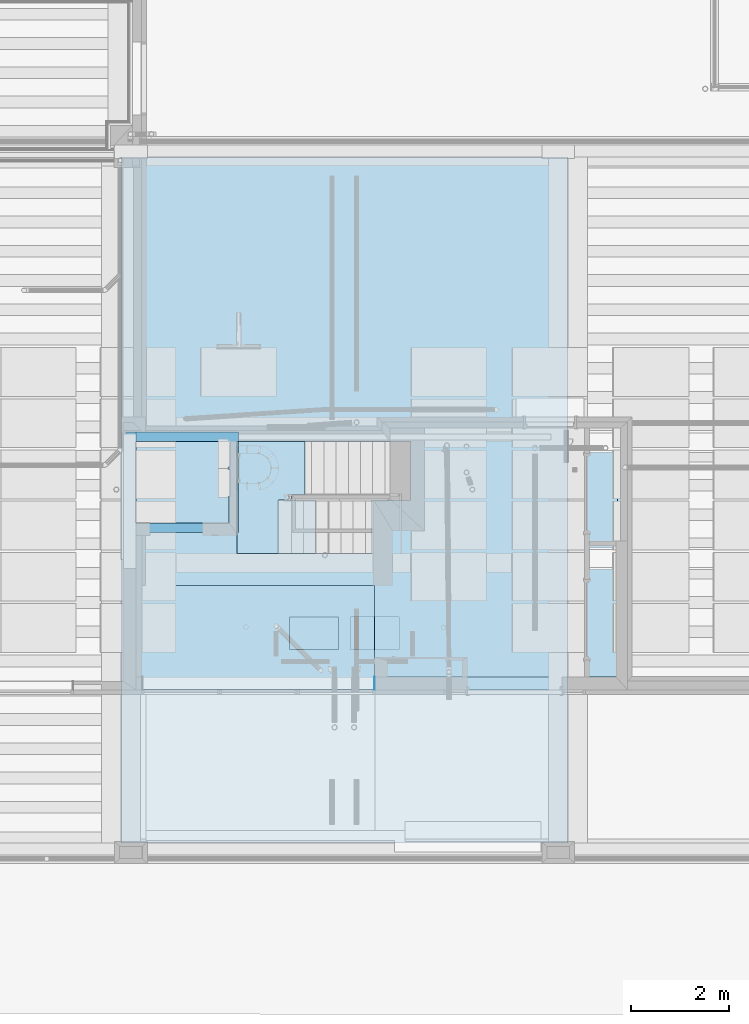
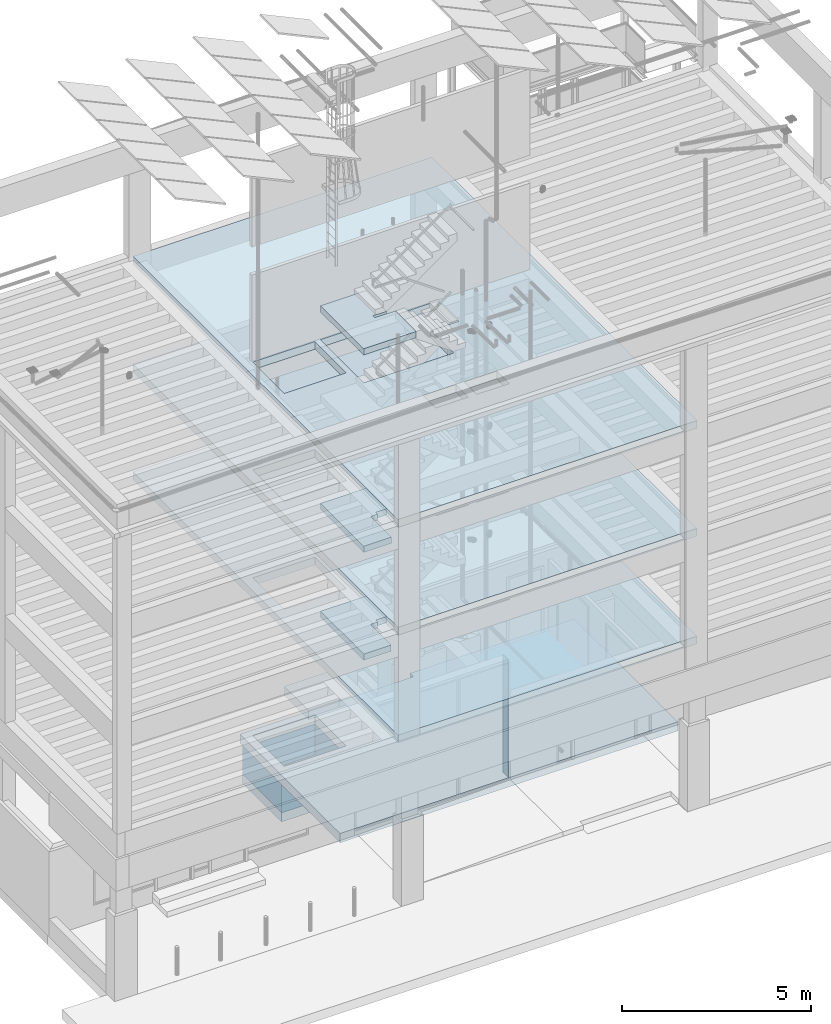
# One storey, part 18 of 106: 12 slabs.
"""IFC2X3 building model written with IfcOpenShell, lengths in metres."""

from ifc_helpers import new_model, entity, si_unit, converted_unit, derived_unit, money_unit, direction, frame, origin_with_axes, place, context, subcontext, project, spatial, faceted_brep, material, type_object, element, save


model = new_model("IFC2X3")

# Units and contexts
model_context = context("Model", 3, precision=1e-05, world=origin_with_axes(), true_north=direction((0.0, 1.0)))
body_context = subcontext(model_context, "Body", "Model", "MODEL_VIEW", scale=1.0)
ifc_project = project(units=[si_unit("LENGTHUNIT", "METRE"), si_unit("AREAUNIT", "SQUARE_METRE"), si_unit("VOLUMEUNIT", "CUBIC_METRE"), si_unit("ABSORBEDDOSEUNIT", "GRAY"), si_unit("AMOUNTOFSUBSTANCEUNIT", "MOLE"), si_unit("DOSEEQUIVALENTUNIT", "SIEVERT"), si_unit("ELECTRICCAPACITANCEUNIT", "FARAD"), si_unit("ELECTRICCHARGEUNIT", "COULOMB"), si_unit("ELECTRICCONDUCTANCEUNIT", "SIEMENS"), si_unit("ELECTRICCURRENTUNIT", "AMPERE"), si_unit("ELECTRICRESISTANCEUNIT", "OHM"), si_unit("ELECTRICVOLTAGEUNIT", "VOLT"), si_unit("ENERGYUNIT", "JOULE"), si_unit("FORCEUNIT", "NEWTON"), si_unit("FREQUENCYUNIT", "HERTZ"), si_unit("ILLUMINANCEUNIT", "LUX"), si_unit("INDUCTANCEUNIT", "HENRY"), si_unit("LUMINOUSFLUXUNIT", "LUMEN"), si_unit("LUMINOUSINTENSITYUNIT", "CANDELA"), si_unit("MAGNETICFLUXDENSITYUNIT", "TESLA"), si_unit("MAGNETICFLUXUNIT", "WEBER"), si_unit("MASSUNIT", "GRAM"), converted_unit("PLANEANGLEUNIT", "degree", entity("IfcReal", 0.0174532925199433), si_unit("PLANEANGLEUNIT", "RADIAN"), dimensions=[0, 0, 0, 0, 0, 0, 0]), si_unit("POWERUNIT", "WATT"), si_unit("PRESSUREUNIT", "PASCAL"), si_unit("RADIOACTIVITYUNIT", "BECQUEREL"), si_unit("SOLIDANGLEUNIT", "STERADIAN"), si_unit("THERMODYNAMICTEMPERATUREUNIT", "KELVIN"), si_unit("TIMEUNIT", "SECOND"), derived_unit("ACCELERATIONUNIT", [(si_unit("LENGTHUNIT", "METRE"), 1), (si_unit("TIMEUNIT", "SECOND"), -2)]), derived_unit("ANGULARVELOCITYUNIT", [(converted_unit("PLANEANGLEUNIT", "degree", entity("IfcReal", 0.0174532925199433), si_unit("PLANEANGLEUNIT", "RADIAN"), dimensions=[0, 0, 0, 0, 0, 0, 0]), 1), (si_unit("TIMEUNIT", "SECOND"), -1)]), derived_unit("CURVATUREUNIT", [(converted_unit("PLANEANGLEUNIT", "degree", entity("IfcReal", 0.0174532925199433), si_unit("PLANEANGLEUNIT", "RADIAN"), dimensions=[0, 0, 0, 0, 0, 0, 0]), 1), (si_unit("LENGTHUNIT", "METRE"), -1)]), derived_unit("DYNAMICVISCOSITYUNIT", [(si_unit("PRESSUREUNIT", "PASCAL"), 1), (si_unit("TIMEUNIT", "SECOND"), 1)]), derived_unit("HEATFLUXDENSITYUNIT", [(si_unit("POWERUNIT", "WATT"), 1), (si_unit("LENGTHUNIT", "METRE"), -2)]), derived_unit("HEATINGVALUEUNIT", [(si_unit("ENERGYUNIT", "JOULE"), 1), (si_unit("MASSUNIT", "GRAM"), -1)]), derived_unit("INTEGERCOUNTRATEUNIT", [(si_unit("TIMEUNIT", "SECOND"), -1)]), derived_unit("IONCONCENTRATIONUNIT", [(si_unit("MASSUNIT", "GRAM"), 1), (si_unit("VOLUMEUNIT", "CUBIC_METRE"), -1)]), derived_unit("ISOTHERMALMOISTURECAPACITYUNIT", [(si_unit("VOLUMEUNIT", "CUBIC_METRE"), 1), (si_unit("MASSUNIT", "GRAM"), -1)]), derived_unit("KINEMATICVISCOSITYUNIT", [(si_unit("AREAUNIT", "SQUARE_METRE"), 1), (si_unit("TIMEUNIT", "SECOND"), -1)]), derived_unit("LINEARFORCEUNIT", [(si_unit("FORCEUNIT", "NEWTON"), 1), (si_unit("LENGTHUNIT", "METRE"), -1)]), derived_unit("LINEARMOMENTUNIT", [(si_unit("FORCEUNIT", "NEWTON"), 1), (si_unit("LENGTHUNIT", "METRE"), -1)]), derived_unit("LINEARSTIFFNESSUNIT", [(si_unit("FORCEUNIT", "NEWTON"), 1), (si_unit("LENGTHUNIT", "METRE"), -1)]), derived_unit("LINEARVELOCITYUNIT", [(si_unit("LENGTHUNIT", "METRE"), 1), (si_unit("TIMEUNIT", "SECOND"), -1)]), derived_unit("LUMINOUSINTENSITYDISTRIBUTIONUNIT", [(si_unit("LUMINOUSINTENSITYUNIT", "CANDELA"), 1), (si_unit("LUMINOUSFLUXUNIT", "LUMEN"), -1)]), derived_unit("MASSDENSITYUNIT", [(si_unit("MASSUNIT", "GRAM"), 1), (si_unit("VOLUMEUNIT", "CUBIC_METRE"), -1)]), derived_unit("MASSFLOWRATEUNIT", [(si_unit("MASSUNIT", "GRAM"), 1), (si_unit("TIMEUNIT", "SECOND"), -1)]), derived_unit("MASSPERLENGTHUNIT", [(si_unit("MASSUNIT", "GRAM"), 1), (si_unit("LENGTHUNIT", "METRE"), -1)]), derived_unit("MODULUSOFELASTICITYUNIT", [(si_unit("FORCEUNIT", "NEWTON"), 1), (si_unit("AREAUNIT", "SQUARE_METRE"), -1)]), derived_unit("MODULUSOFLINEARSUBGRADEREACTIONUNIT", [(si_unit("FORCEUNIT", "NEWTON"), 1), (si_unit("LENGTHUNIT", "METRE"), -2)]), derived_unit("MODULUSOFROTATIONALSUBGRADEREACTIONUNIT", [(si_unit("FORCEUNIT", "NEWTON"), 1), (si_unit("LENGTHUNIT", "METRE"), 1)]), derived_unit("MODULUSOFSUBGRADEREACTIONUNIT", [(si_unit("FORCEUNIT", "NEWTON"), 1), (si_unit("VOLUMEUNIT", "CUBIC_METRE"), -1)]), derived_unit("MOISTUREDIFFUSIVITYUNIT", [(si_unit("VOLUMEUNIT", "CUBIC_METRE"), 1), (si_unit("TIMEUNIT", "SECOND"), -1)]), derived_unit("MOLECULARWEIGHTUNIT", [(si_unit("MASSUNIT", "GRAM"), 1), (si_unit("AMOUNTOFSUBSTANCEUNIT", "MOLE"), -1)]), derived_unit("PLANARFORCEUNIT", [(si_unit("FORCEUNIT", "NEWTON"), 1), (si_unit("LENGTHUNIT", "METRE"), -2)]), derived_unit("ROTATIONALFREQUENCYUNIT", [(si_unit("TIMEUNIT", "SECOND"), -1)]), derived_unit("ROTATIONALMASSUNIT", [(si_unit("MASSUNIT", "GRAM"), 1), (si_unit("LENGTHUNIT", "METRE"), 2)]), derived_unit("ROTATIONALSTIFFNESSUNIT", [(si_unit("FORCEUNIT", "NEWTON"), 1), (si_unit("LENGTHUNIT", "METRE"), 1), (converted_unit("PLANEANGLEUNIT", "degree", entity("IfcReal", 0.0174532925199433), si_unit("PLANEANGLEUNIT", "RADIAN"), dimensions=[0, 0, 0, 0, 0, 0, 0]), -1)]), derived_unit("SECTIONAREAINTEGRALUNIT", [(si_unit("LENGTHUNIT", "METRE"), 5)]), derived_unit("SECTIONMODULUSUNIT", [(si_unit("LENGTHUNIT", "METRE"), 3)]), derived_unit("SHEARMODULUSUNIT", [(si_unit("FORCEUNIT", "NEWTON"), 1), (si_unit("AREAUNIT", "SQUARE_METRE"), -1)]), derived_unit("SOUNDPOWERUNIT", [(si_unit("ENERGYUNIT", "JOULE"), 1), (si_unit("TIMEUNIT", "SECOND"), -1)]), derived_unit("SPECIFICHEATCAPACITYUNIT", [(si_unit("FORCEUNIT", "NEWTON"), 1), (si_unit("MASSUNIT", "GRAM"), -1), (si_unit("THERMODYNAMICTEMPERATUREUNIT", "KELVIN"), -1)]), derived_unit("TEMPERATUREGRADIENTUNIT", [(si_unit("THERMODYNAMICTEMPERATUREUNIT", "KELVIN"), 1), (si_unit("LENGTHUNIT", "METRE"), -1)]), derived_unit("THERMALADMITTANCEUNIT", [(si_unit("POWERUNIT", "WATT"), 1), (si_unit("AREAUNIT", "SQUARE_METRE"), -1), (si_unit("THERMODYNAMICTEMPERATUREUNIT", "KELVIN"), -1)]), derived_unit("THERMALCONDUCTANCEUNIT", [(si_unit("POWERUNIT", "WATT"), 1), (si_unit("LENGTHUNIT", "METRE"), -1), (si_unit("THERMODYNAMICTEMPERATUREUNIT", "KELVIN"), -1)]), derived_unit("THERMALEXPANSIONCOEFFICIENTUNIT", [(si_unit("THERMODYNAMICTEMPERATUREUNIT", "KELVIN"), -1)]), derived_unit("THERMALRESISTANCEUNIT", [(si_unit("AREAUNIT", "SQUARE_METRE"), 1), (si_unit("POWERUNIT", "WATT"), -1)]), derived_unit("THERMALTRANSMITTANCEUNIT", [(si_unit("POWERUNIT", "WATT"), 1), (si_unit("AREAUNIT", "SQUARE_METRE"), -1), (si_unit("THERMODYNAMICTEMPERATUREUNIT", "KELVIN"), -1)]), derived_unit("TORQUEUNIT", [(si_unit("FORCEUNIT", "NEWTON"), 1), (si_unit("LENGTHUNIT", "METRE"), 1)]), derived_unit("VAPORPERMEABILITYUNIT", [(si_unit("MASSUNIT", "GRAM"), 1), (si_unit("TIMEUNIT", "SECOND"), -1)]), derived_unit("VOLUMETRICFLOWRATEUNIT", [(si_unit("VOLUMEUNIT", "CUBIC_METRE"), 1), (si_unit("TIMEUNIT", "SECOND"), -1)]), derived_unit("WARPINGCONSTANTUNIT", [(si_unit("LENGTHUNIT", "METRE"), 6)]), derived_unit("WARPINGMOMENTUNIT", [(si_unit("FORCEUNIT", "NEWTON"), 1), (si_unit("LENGTHUNIT", "METRE"), 2)]), money_unit("GBP")], contexts=[model_context])

# Site, building, storey
site_placement = place(None, origin_with_axes())
site = spatial("IfcSite", under=ifc_project, at=site_placement, Name="Site", CompositionType="ELEMENT")
building_placement = place(site_placement, origin_with_axes())
building = spatial("IfcBuilding", under=site, at=building_placement, Name="Building01", CompositionType="ELEMENT")
storey_placement = place(building_placement, origin_with_axes())
storey = spatial("IfcBuildingStorey", under=building, at=storey_placement, Name="GF", CompositionType="ELEMENT", Elevation=0.0)

# Slabs
ifc_material = material(Name="A_BSUK_Slabs")
slab_type = type_object("IfcSlabType", Name="A-FloorsSlabs A_BSUK_Slabs", PredefinedType="FLOOR")
placement = place(storey_placement, origin_with_axes())
element("IfcSlab", 1, at=placement, inside=storey, type_object=slab_type, material=ifc_material, Name="A-FloorsSlabs A_BSUK_Slabs", ObjectType="CompoundSlabLeaf", context=body_context, shape_type="Brep", body=[
    faceted_brep([(14.124099, 3.559352, 0.015), (14.109099, 3.559352, 0.015), (14.109099, 3.823962, 0.015), (14.124099, 3.823962, 0.015), (14.124099, 3.559263, 3.815), (14.109099, 3.559263, 3.815), (14.124099, 3.823838, 3.815), (14.109099, 3.823838, 3.815)], [[[0, 1, 2, 3]], [[4, 5, 1, 0]], [[6, 7, 5, 4]], [[3, 2, 7, 6]], [[1, 5, 7, 2]], [[3, 6, 4, 0]]]),
])
element("IfcSlab", 2, at=placement, inside=storey, type_object=slab_type, material=ifc_material, Name="A-FloorsSlabs A_BSUK_Slabs", ObjectType="CompoundSlabLeaf", context=body_context, shape_type="Brep", body=[
    faceted_brep([(8.965099, 8.87141, 0.0), (8.965099, 3.559165, 0.0), (19.302967, 3.559165, 0.0), (19.302967, 9.053145, 0.0), (14.27235, 9.053145, 0.0), (14.27235, 8.87141, 0.0), (9.229999, 8.64741, 0.0), (11.129999, 8.64741, 0.0), (11.129999, 6.989761, 0.0), (9.229999, 6.989761, 0.0), (14.27235, 8.87141, -0.3), (14.27235, 9.053145, -0.3), (19.302967, 9.053145, -0.3), (19.302967, 3.559165, -0.3), (8.965099, 3.559165, -0.3), (8.965099, 8.87141, -0.3), (9.229999, 8.64741, -0.3), (9.229999, 6.989761, -0.3), (11.129999, 6.989761, -0.3), (11.129999, 8.64741, -0.3)], [[[0, 1, 2, 3, 4, 5], [6, 7, 8, 9]], [[10, 11, 12, 13, 14, 15], [16, 17, 18, 19]], [[15, 0, 5, 10]], [[14, 1, 0, 15]], [[13, 2, 1, 14]], [[12, 3, 2, 13]], [[11, 4, 3, 12]], [[10, 5, 4, 11]], [[16, 19, 7, 6]], [[17, 16, 6, 9]], [[18, 17, 9, 8]], [[19, 18, 8, 7]]]),
])
element("IfcSlab", 3, at=placement, inside=storey, type_object=slab_type, material=ifc_material, Name="A-FloorsSlabs A_BSUK_Slabs", ObjectType="CompoundSlabLeaf", context=body_context, shape_type="Brep", body=[
    faceted_brep([(9.23, 8.64741, -1.3), (9.23, 8.64741, -0.3), (9.23, 8.84741, -0.3), (9.23, 8.84741, -1.3), (11.13, 8.64741, -1.3), (11.13, 8.64741, -0.3), (11.13, 6.98, -1.3), (11.13, 6.98, -0.3), (11.33, 6.98, -1.3), (11.33, 6.98, -0.3), (11.33, 8.84741, -1.3), (11.33, 8.84741, -0.3), (11.13, 8.84741, -1.3), (11.13, 8.84741, -0.3)], [[[0, 1, 2, 3]], [[4, 5, 1, 0]], [[6, 7, 5, 4]], [[8, 9, 7, 6]], [[10, 11, 9, 8]], [[12, 13, 11, 10]], [[3, 2, 13, 12]], [[1, 5, 7, 9, 11, 13, 2]], [[3, 12, 10, 8, 6, 4, 0]]]),
])
element("IfcSlab", 4, at=placement, inside=storey, type_object=slab_type, material=ifc_material, Name="A-FloorsSlabs A_BSUK_Slabs", ObjectType="CompoundSlabLeaf", context=body_context, shape_type="Brep", body=[
    faceted_brep([(11.33, 6.98, -1.3), (11.33, 6.98, -0.3), (11.33, 6.78, -0.3), (11.33, 6.78, -1.3), (9.23, 6.98, -1.3), (9.23, 6.98, -0.3), (9.23, 8.84741, -1.3), (9.23, 8.84741, -0.3), (9.03, 8.84741, -1.3), (9.03, 8.84741, -0.3), (9.03, 6.78, -1.3), (9.03, 6.78, -0.3), (9.23, 6.78, -1.3), (9.23, 6.78, -0.3)], [[[0, 1, 2, 3]], [[4, 5, 1, 0]], [[6, 7, 5, 4]], [[8, 9, 7, 6]], [[10, 11, 9, 8]], [[12, 13, 11, 10]], [[3, 2, 13, 12]], [[1, 5, 7, 9, 11, 13, 2]], [[3, 12, 10, 8, 6, 4, 0]]]),
])
element("IfcSlab", 5, at=placement, inside=storey, type_object=slab_type, material=ifc_material, Name="A-FloorsSlabs A_BSUK_Slabs", ObjectType="CompoundSlabLeaf", context=body_context, shape_type="Brep", body=[
    faceted_brep([(9.03, 8.84741, -1.6), (9.03, 8.84741, -1.3), (11.33, 8.84741, -1.3), (11.33, 8.84741, -1.6), (9.03, 6.78, -1.6), (9.03, 6.78, -1.3), (11.33, 6.78, -1.6), (11.33, 6.78, -1.3)], [[[0, 1, 2, 3]], [[4, 5, 1, 0]], [[6, 7, 5, 4]], [[3, 2, 7, 6]], [[1, 5, 7, 2]], [[3, 6, 4, 0]]]),
])
element("IfcSlab", 6, at=placement, inside=storey, type_object=slab_type, material=ifc_material, Name="A-FloorsSlabs A_BSUK_Slabs", ObjectType="CompoundSlabLeaf", context=body_context, shape_type="Brep", body=[
    faceted_brep([(14.535, 8.65, 2.3), (14.535, 8.65, 2.6), (14.535, 8.852854, 2.6), (14.535, 8.852854, 2.3), (14.8, 8.65, 2.3), (14.8, 8.65, 2.6), (14.8, 7.55, 2.3), (14.8, 7.55, 2.6), (12.4238, 7.55, 2.3), (12.4238, 7.55, 2.6), (12.42395, 6.35, 2.3), (12.42395, 6.35, 2.6), (11.3, 6.35, 2.3), (11.3, 6.35, 2.6), (11.3, 6.98, 2.3), (11.3, 6.98, 2.6), (9.23, 6.98, 2.3), (9.23, 6.98, 2.6), (9.23, 5.69305, 2.3), (9.23, 5.69305, 2.6), (14.121434, 5.69305, 2.3), (14.121434, 5.69305, 2.6), (14.121434, 3.823962, 2.3), (14.121434, 3.823962, 2.6), (19.102776, 3.823962, 2.3), (19.102776, 3.823962, 2.6), (19.102776, 6.610938, 2.3), (19.102776, 6.610938, 2.6), (19.102776, 8.852854, 2.3), (19.102776, 8.852854, 2.6)], [[[0, 1, 2, 3]], [[4, 5, 1, 0]], [[6, 7, 5, 4]], [[8, 9, 7, 6]], [[10, 11, 9, 8]], [[12, 13, 11, 10]], [[14, 15, 13, 12]], [[16, 17, 15, 14]], [[18, 19, 17, 16]], [[20, 21, 19, 18]], [[22, 23, 21, 20]], [[24, 25, 23, 22]], [[26, 27, 25, 24]], [[28, 29, 27, 26]], [[3, 2, 29, 28]], [[1, 5, 7, 9, 11, 13, 15, 17, 19, 21, 23, 25, 27, 29, 2]], [[3, 28, 26, 24, 22, 20, 18, 16, 14, 12, 10, 8, 6, 4, 0]]]),
])
element("IfcSlab", 7, at=placement, inside=storey, type_object=slab_type, material=ifc_material, Name="A-FloorsSlabs A_BSUK_Slabs", ObjectType="CompoundSlabLeaf", context=body_context, shape_type="Brep", body=[
    faceted_brep([(8.925, 14.48, 8.59), (8.925, 0.42, 8.59), (18.085, 0.42, 8.59), (18.085, 14.48, 8.59), (13.375, 5.05385, 8.59), (13.375, 4.389428, 8.59), (12.375, 4.389428, 8.59), (12.375, 5.05385, 8.59), (14.059316, 6.35, 8.59), (11.3, 6.35, 8.59), (11.3, 8.65, 8.59), (14.859584, 8.65, 8.59), (14.859584, 7.454282, 8.59), (14.059316, 7.454282, 8.59), (14.625, 5.05385, 8.59), (14.625, 4.389428, 8.59), (13.625, 4.389428, 8.59), (13.625, 5.05385, 8.59), (11.13, 8.65, 8.59), (11.13, 6.98, 8.59), (9.23, 6.98, 8.59), (9.23, 8.65, 8.59), (18.085, 14.48, 8.34), (18.085, 0.42, 8.34), (8.925, 0.42, 8.34), (8.925, 14.48, 8.34), (14.625, 5.05385, 8.34), (13.625, 5.05385, 8.34), (13.625, 4.389428, 8.34), (14.625, 4.389428, 8.34), (13.375, 5.05385, 8.34), (12.375, 5.05385, 8.34), (12.375, 4.389428, 8.34), (13.375, 4.389428, 8.34), (14.059316, 6.35, 8.34), (14.059316, 7.454282, 8.34), (14.859584, 7.454282, 8.34), (14.859584, 8.65, 8.34), (11.3, 8.65, 8.34), (11.3, 6.35, 8.34), (11.13, 8.65, 8.34), (9.23, 8.65, 8.34), (9.23, 6.98, 8.34), (11.13, 6.98, 8.34)], [[[0, 1, 2, 3], [4, 5, 6, 7], [8, 9, 10, 11, 12, 13], [14, 15, 16, 17], [18, 19, 20, 21]], [[22, 23, 24, 25], [26, 27, 28, 29], [30, 31, 32, 33], [34, 35, 36, 37, 38, 39], [40, 41, 42, 43]], [[35, 13, 12, 36]], [[25, 0, 3, 22]], [[24, 1, 0, 25]], [[23, 2, 1, 24]], [[22, 3, 2, 23]], [[17, 27, 26, 14]], [[14, 26, 29, 15]], [[15, 29, 28, 16]], [[16, 28, 27, 17]], [[7, 31, 30, 4]], [[4, 30, 33, 5]], [[5, 33, 32, 6]], [[6, 32, 31, 7]], [[10, 38, 37, 11]], [[11, 37, 36, 12]], [[9, 39, 38, 10]], [[8, 34, 39, 9]], [[13, 35, 34, 8]], [[21, 41, 40, 18]], [[18, 40, 43, 19]], [[19, 43, 42, 20]], [[20, 42, 41, 21]]]),
])
element("IfcSlab", 8, at=placement, inside=storey, type_object=slab_type, material=ifc_material, Name="A-FloorsSlabs A_BSUK_Slabs", ObjectType="CompoundSlabLeaf", context=body_context, shape_type="Brep", body=[
    faceted_brep([(8.925, 14.48, 12.08), (8.925, 0.42, 12.08), (18.085, 0.42, 12.08), (18.085, 14.48, 12.08), (13.375, 5.05385, 12.08), (13.375, 4.389428, 12.08), (12.375, 4.389428, 12.08), (12.375, 5.05385, 12.08), (14.059317, 6.35, 12.08), (11.3, 6.35, 12.08), (11.3, 8.65, 12.08), (14.897097, 8.65, 12.08), (14.897097, 7.55, 12.08), (14.059317, 7.55, 12.08), (14.625, 5.05385, 12.08), (14.625, 4.389428, 12.08), (13.625, 4.389428, 12.08), (13.625, 5.05385, 12.08), (11.13, 8.65, 12.08), (11.13, 6.98, 12.08), (9.23, 6.98, 12.08), (9.23, 8.65, 12.08), (18.085, 14.48, 11.83), (18.085, 0.42, 11.83), (8.925, 0.42, 11.83), (8.925, 14.48, 11.83), (14.625, 5.05385, 11.83), (13.625, 5.05385, 11.83), (13.625, 4.389428, 11.83), (14.625, 4.389428, 11.83), (13.375, 5.05385, 11.83), (12.375, 5.05385, 11.83), (12.375, 4.389428, 11.83), (13.375, 4.389428, 11.83), (14.059317, 6.35, 11.83), (14.059317, 7.55, 11.83), (14.897097, 7.55, 11.83), (14.897097, 8.65, 11.83), (11.3, 8.65, 11.83), (11.3, 6.35, 11.83), (11.13, 8.65, 11.83), (9.23, 8.65, 11.83), (9.23, 6.98, 11.83), (11.13, 6.98, 11.83)], [[[0, 1, 2, 3], [4, 5, 6, 7], [8, 9, 10, 11, 12, 13], [14, 15, 16, 17], [18, 19, 20, 21]], [[22, 23, 24, 25], [26, 27, 28, 29], [30, 31, 32, 33], [34, 35, 36, 37, 38, 39], [40, 41, 42, 43]], [[35, 13, 12, 36]], [[25, 0, 3, 22]], [[24, 1, 0, 25]], [[23, 2, 1, 24]], [[22, 3, 2, 23]], [[17, 27, 26, 14]], [[14, 26, 29, 15]], [[15, 29, 28, 16]], [[16, 28, 27, 17]], [[7, 31, 30, 4]], [[4, 30, 33, 5]], [[5, 33, 32, 6]], [[6, 32, 31, 7]], [[10, 38, 37, 11]], [[11, 37, 36, 12]], [[9, 39, 38, 10]], [[8, 34, 39, 9]], [[13, 35, 34, 8]], [[21, 41, 40, 18]], [[18, 40, 43, 19]], [[19, 43, 42, 20]], [[20, 42, 41, 21]]]),
])
element("IfcSlab", 9, at=placement, inside=storey, type_object=slab_type, material=ifc_material, Name="A-FloorsSlabs A_BSUK_Slabs", ObjectType="CompoundSlabLeaf", context=body_context, shape_type="Brep", body=[
    faceted_brep([(8.925, 14.48, 5.1), (8.925, 0.42, 5.1), (18.085, 0.42, 5.1), (18.085, 14.48, 5.1), (14.625, 5.05385, 5.1), (14.625, 4.389428, 5.1), (13.625, 4.389428, 5.1), (13.625, 5.05385, 5.1), (14.059317, 6.35, 5.1), (11.3, 6.35, 5.1), (11.3, 8.65, 5.1), (14.859584, 8.65, 5.1), (14.859584, 7.454191, 5.1), (14.059317, 7.454191, 5.1), (11.13, 8.65, 5.1), (11.13, 6.98, 5.1), (9.23, 6.98, 5.1), (9.23, 8.65, 5.1), (18.085, 14.48, 4.85), (18.085, 0.42, 4.85), (8.925, 0.42, 4.85), (8.925, 14.48, 4.85), (14.625, 5.05385, 4.85), (13.625, 5.05385, 4.85), (13.625, 4.389428, 4.85), (14.625, 4.389428, 4.85), (14.059317, 6.35, 4.85), (14.059317, 7.454191, 4.85), (14.859584, 7.454191, 4.85), (14.859584, 8.65, 4.85), (11.3, 8.65, 4.85), (11.3, 6.35, 4.85), (11.13, 8.65, 4.85), (9.23, 8.65, 4.85), (9.23, 6.98, 4.85), (11.13, 6.98, 4.85)], [[[0, 1, 2, 3], [4, 5, 6, 7], [8, 9, 10, 11, 12, 13], [14, 15, 16, 17]], [[18, 19, 20, 21], [22, 23, 24, 25], [26, 27, 28, 29, 30, 31], [32, 33, 34, 35]], [[27, 13, 12, 28]], [[21, 0, 3, 18]], [[20, 1, 0, 21]], [[19, 2, 1, 20]], [[18, 3, 2, 19]], [[7, 23, 22, 4]], [[4, 22, 25, 5]], [[5, 25, 24, 6]], [[6, 24, 23, 7]], [[10, 30, 29, 11]], [[11, 29, 28, 12]], [[9, 31, 30, 10]], [[8, 26, 31, 9]], [[13, 27, 26, 8]], [[17, 33, 32, 14]], [[14, 32, 35, 15]], [[15, 35, 34, 16]], [[16, 34, 33, 17]]]),
])
slab_10_placement = place(storey_placement, frame((11.3, 8.65, 3.1), z_axis=(0.0, 0.0, 1.0), x_axis=(1.0, 0.0, 0.0)))
element("IfcSlab", 10, at=slab_10_placement, inside=storey, type_object=slab_type, material=ifc_material, Name="A-FloorsSlabs A_BSUK_Slabs", ObjectType="A-FloorsSlabs A_BSUK_Slabs", context=body_context, shape_type="Brep", body=[
    faceted_brep([(0.0, 0.0, 0.0), (0.0, 0.0, 0.2), (1.395807, 0.0, 0.2), (1.395807, 0.0, 0.0), (0.0, -2.3, 0.0), (0.0, -2.3, 0.2), (0.841481, -2.3, 0.0), (0.841481, -2.3, 0.2), (0.841481, -1.2, 0.0), (0.841481, -1.2, 0.2), (1.059584, -1.2, 0.0), (1.059584, -1.2, 0.2), (1.059584, -1.1, 0.0), (1.059584, -1.1, 0.2), (1.395807, -1.1, 0.0), (1.395807, -1.1, 0.2)], [[[0, 1, 2, 3]], [[4, 5, 1, 0]], [[6, 7, 5, 4]], [[8, 9, 7, 6]], [[10, 11, 9, 8]], [[12, 13, 11, 10]], [[14, 15, 13, 12]], [[3, 2, 15, 14]], [[1, 5, 7, 9, 11, 13, 15, 2]], [[3, 14, 12, 10, 8, 6, 4, 0]]]),
])
element("IfcSlab", 11, at=placement, inside=storey, type_object=slab_type, material=ifc_material, Name="A-FloorsSlabs A_BSUK_Slabs", ObjectType="CompoundSlabLeaf", context=body_context, shape_type="Brep", body=[
    faceted_brep([(11.3, 6.35, 12.98), (11.3, 6.35, 13.18), (11.3, 8.65, 13.18), (11.3, 8.65, 12.98), (12.905859, 6.35, 12.98), (12.905859, 6.35, 13.18), (12.905859, 7.450763, 12.98), (12.905859, 7.450763, 13.18), (12.2808, 7.450763, 12.98), (12.2808, 7.450763, 13.18), (12.2808, 7.55, 12.98), (12.2808, 7.55, 13.18), (12.691223, 7.550019, 12.98), (12.691223, 7.550019, 13.18), (12.691223, 8.65, 12.98), (12.691223, 8.65, 13.18)], [[[0, 1, 2, 3]], [[4, 5, 1, 0]], [[6, 7, 5, 4]], [[8, 9, 7, 6]], [[10, 11, 9, 8]], [[12, 13, 11, 10]], [[14, 15, 13, 12]], [[3, 2, 15, 14]], [[1, 5, 7, 9, 11, 13, 15, 2]], [[3, 14, 12, 10, 8, 6, 4, 0]]]),
])
element("IfcSlab", 12, at=placement, inside=storey, type_object=slab_type, material=ifc_material, Name="A-FloorsSlabs A_BSUK_Slabs", ObjectType="CompoundSlabLeaf", context=body_context, shape_type="Brep", body=[
    faceted_brep([(11.3, 8.65, 6.59), (11.3, 8.65, 6.79), (12.695807, 8.65, 6.79), (12.695807, 8.65, 6.59), (11.3, 6.35, 6.59), (11.3, 6.35, 6.79), (12.147098, 6.35, 6.59), (12.147098, 6.35, 6.79), (12.147665, 7.45, 6.59), (12.147665, 7.45, 6.79), (12.359584, 7.45, 6.59), (12.359584, 7.45, 6.79), (12.359584, 7.55, 6.59), (12.359584, 7.55, 6.79), (12.695807, 7.55, 6.59), (12.695807, 7.55, 6.79)], [[[0, 1, 2, 3]], [[4, 5, 1, 0]], [[6, 7, 5, 4]], [[8, 9, 7, 6]], [[10, 11, 9, 8]], [[12, 13, 11, 10]], [[14, 15, 13, 12]], [[3, 2, 15, 14]], [[1, 5, 7, 9, 11, 13, 15, 2]], [[3, 14, 12, 10, 8, 6, 4, 0]]]),
])

save(model, "model.ifc")
